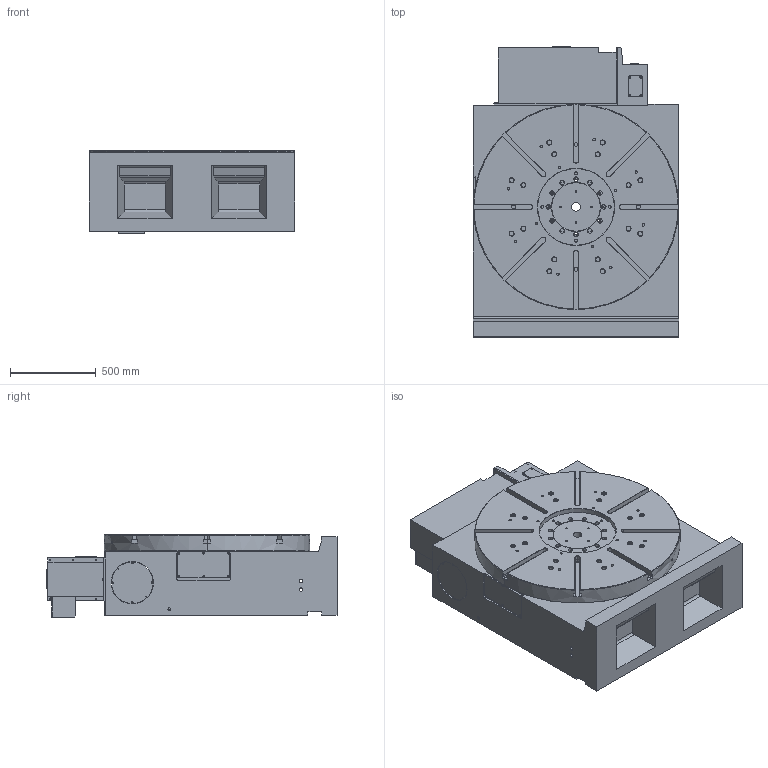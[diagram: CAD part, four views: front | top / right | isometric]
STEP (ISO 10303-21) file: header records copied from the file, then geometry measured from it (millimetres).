
FILE_DESCRIPTION (( 'STEP AP203' ), '1' );
FILE_NAME ('1547027-MDU1200R-02.STEP', '2020-12-05T05:26:51', ( '' ), ( '' ), 'SwSTEP 2.0', 'SolidWorks 2019', '' );
FILE_SCHEMA (( 'CONFIG_CONTROL_DESIGN' ));
Length unit declared in the file: millimetre
Products named in the file (1): 1547027-MDU1200R-02
Bounding box: 1200 x 1695.5 x 481 mm (x, y, z)
Surface area: 8488673.8 mm2 (no closed solid volume)
Topology: 0 solids, 66 shells, 654 faces, 2473 edges, 1814 vertices
Faces by surface type: cylinder 323, plane 212, cone 79, bspline 28, sphere 9, torus 3
Entity records: 28524 total; most frequent: CARTESIAN_POINT 7146, DIRECTION 4766, ORIENTED_EDGE 3724, EDGE_CURVE 2463, AXIS2_PLACEMENT_3D 1854, VERTEX_POINT 1812, CIRCLE 1227, LINE 1058
